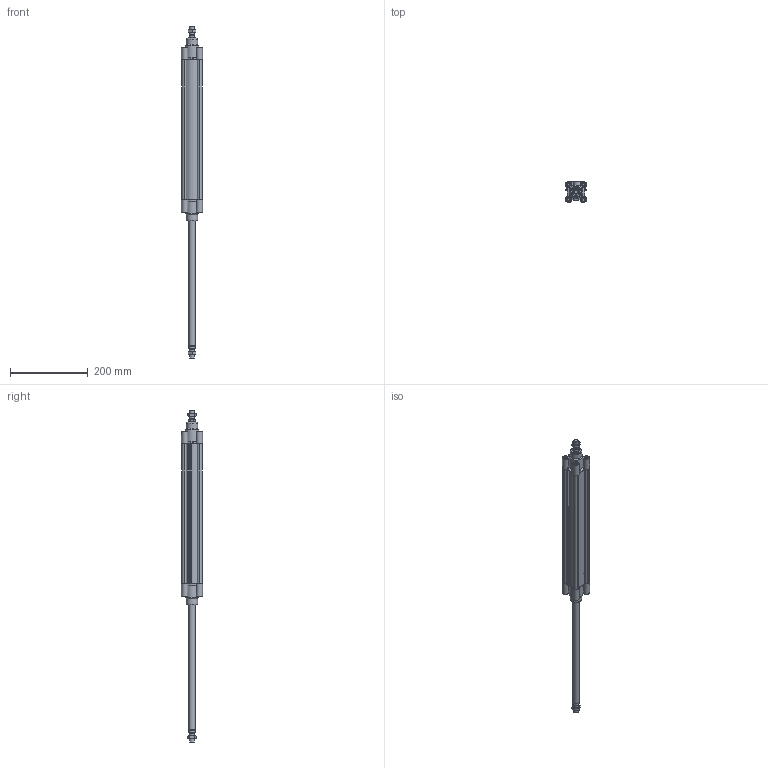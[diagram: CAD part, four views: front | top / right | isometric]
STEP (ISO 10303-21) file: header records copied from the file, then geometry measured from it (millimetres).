
FILE_DESCRIPTION((''),'2;1');
FILE_NAME('I:\Area Tecnica\Disegni\VARIE-3D\Componenti\ECOLIGHT\02\stp\139#_40_0320_02.iam.stp','2012-01-28T09:39:09',(''),(''),'Autodesk Inventor 2012','Autodesk Inventor 2012','');
FILE_SCHEMA(('AUTOMOTIVE_DESIGN { 1 0 10303 214 1 1 1 1 }'));
Length unit declared in the file: millimetre
Products named in the file (5): 139#_40_0320_02; CPL040_004-320; CPL040-001-01; CPL_40SP_0320; 1320_40_18F
Assembly tree (6 placements, depth 2):
  139#_40_0320_02
    CPL040_004-320
    CPL040-001-01  x2
    CPL_40SP_0320
    1320_40_18F  x2
Bounding box: 54 x 54 x 853 mm (x, y, z)
Volume: 582861.7 mm3; surface area: 281513.6 mm2
Topology: 6 solids, 6 shells, 351 faces, 860 edges, 564 vertices
Faces by surface type: plane 211, cylinder 98, cone 40, torus 2
Full cylindrical faces by diameter (mm): 5 x8, 5.5 x4, 8 x2, 10 x8, 10.5 x10, 10.8 x2, 11.6 x2, 12 x2, 15.5 x2, 16 x4, 30 x2, 35 x2, 40 x4
Entity records: 7104 total; most frequent: CARTESIAN_POINT 1295, DIRECTION 1162, ORIENTED_EDGE 1084, EDGE_CURVE 542, AXIS2_PLACEMENT_3D 413, VERTEX_POINT 380, VECTOR 336, LINE 336
